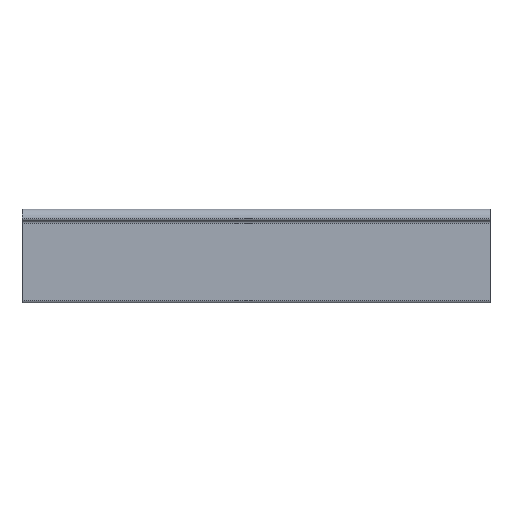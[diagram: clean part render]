
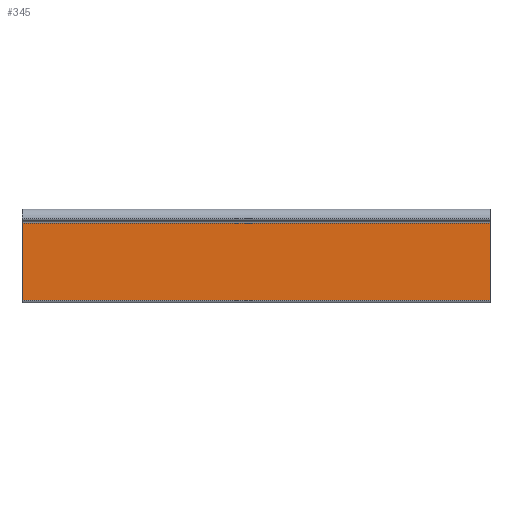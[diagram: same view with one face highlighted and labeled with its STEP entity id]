
A CAD part, front view. The second image highlights one B-rep face of the part: STEP entity #345.
In plain terms, the highlighted planar face has unit normal (0, -1, 0).
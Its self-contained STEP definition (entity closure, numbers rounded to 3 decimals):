
#45 = AXIS2_PLACEMENT_3D ( 'NONE', #619, #247, #375 ) ;
#81 = VERTEX_POINT ( 'NONE', #147 ) ;
#88 = LINE ( 'NONE', #283, #733 ) ;
#99 = CARTESIAN_POINT ( 'NONE',  ( -40.816, 45.398, 17. ) ) ;
#147 = CARTESIAN_POINT ( 'NONE',  ( 59.184, 45.398, 0.5 ) ) ;
#161 = DIRECTION ( 'NONE',  ( 0., 0., -1. ) ) ;
#189 = PLANE ( 'NONE',  #45 ) ;
#196 = EDGE_CURVE ( 'NONE', #234, #197, #514, .T. ) ;
#197 = VERTEX_POINT ( 'NONE', #99 ) ;
#234 = VERTEX_POINT ( 'NONE', #599 ) ;
#235 = EDGE_CURVE ( 'NONE', #81, #280, #564, .T. ) ;
#241 = ORIENTED_EDGE ( 'NONE', *, *, #196, .T. ) ;
#247 = DIRECTION ( 'NONE',  ( 0., 1., 0. ) ) ;
#280 = VERTEX_POINT ( 'NONE', #304 ) ;
#283 = CARTESIAN_POINT ( 'NONE',  ( 59.184, 45.398, 17. ) ) ;
#289 = DIRECTION ( 'NONE',  ( -1., 0., 0. ) ) ;
#295 = CARTESIAN_POINT ( 'NONE',  ( 59.184, 45.398, 17. ) ) ;
#297 = EDGE_CURVE ( 'NONE', #197, #280, #328, .T. ) ;
#304 = CARTESIAN_POINT ( 'NONE',  ( -40.816, 45.398, 0.5 ) ) ;
#328 = LINE ( 'NONE', #556, #785 ) ;
#345 = ADVANCED_FACE ( 'NONE', ( #467 ), #189, .F. ) ;
#375 = DIRECTION ( 'NONE',  ( 0., 0., 1. ) ) ;
#394 = VECTOR ( 'NONE', #424, 1000. ) ;
#415 = EDGE_LOOP ( 'NONE', ( #618, #443, #695, #241 ) ) ;
#416 = VECTOR ( 'NONE', #289, 1000. ) ;
#424 = DIRECTION ( 'NONE',  ( -1., 0., 0. ) ) ;
#443 = ORIENTED_EDGE ( 'NONE', *, *, #235, .F. ) ;
#467 = FACE_OUTER_BOUND ( 'NONE', #415, .T. ) ;
#497 = CARTESIAN_POINT ( 'NONE',  ( 59.184, 45.398, 0.5 ) ) ;
#514 = LINE ( 'NONE', #295, #416 ) ;
#556 = CARTESIAN_POINT ( 'NONE',  ( -40.816, 45.398, 17. ) ) ;
#558 = DIRECTION ( 'NONE',  ( 0., 0., -1. ) ) ;
#564 = LINE ( 'NONE', #497, #394 ) ;
#599 = CARTESIAN_POINT ( 'NONE',  ( 59.184, 45.398, 17. ) ) ;
#618 = ORIENTED_EDGE ( 'NONE', *, *, #297, .T. ) ;
#619 = CARTESIAN_POINT ( 'NONE',  ( 59.184, 45.398, 17. ) ) ;
#633 = EDGE_CURVE ( 'NONE', #234, #81, #88, .T. ) ;
#695 = ORIENTED_EDGE ( 'NONE', *, *, #633, .F. ) ;
#733 = VECTOR ( 'NONE', #161, 1000. ) ;
#785 = VECTOR ( 'NONE', #558, 1000. ) ;
